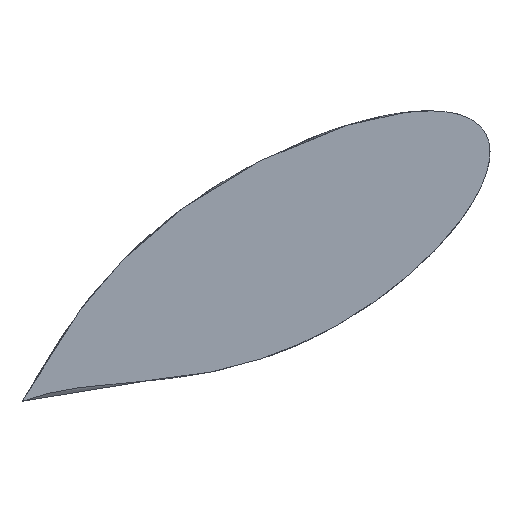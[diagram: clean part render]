
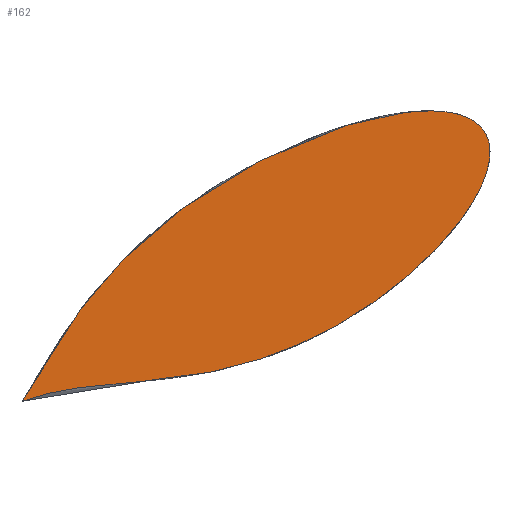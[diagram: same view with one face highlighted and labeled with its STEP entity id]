
A CAD part, left-side view. The second image highlights one B-rep face of the part: STEP entity #162.
In plain terms, the highlighted planar face has unit normal (-1, 0, 0).
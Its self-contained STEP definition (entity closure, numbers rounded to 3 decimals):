
#68=CARTESIAN_POINT('Vertex',(0.,274.53,-158.5)) ;
#74=CARTESIAN_POINT('Control Point',(0.,274.53,-158.5)) ;
#75=CARTESIAN_POINT('Control Point',(0.,260.905,-134.901)) ;
#76=CARTESIAN_POINT('Control Point',(0.,245.671,-110.006)) ;
#77=CARTESIAN_POINT('Control Point',(0.,228.829,-83.814)) ;
#78=CARTESIAN_POINT('Control Point',(0.,170.999,-29.869)) ;
#79=CARTESIAN_POINT('Control Point',(0.,83.901,9.571)) ;
#80=CARTESIAN_POINT('Control Point',(0.,37.79,21.257)) ;
#81=CARTESIAN_POINT('Control Point',(0.,9.09,16.611)) ;
#82=CARTESIAN_POINT('Control Point',(0.,0.,0.)) ;
#83=CARTESIAN_POINT('Vertex',(0.,0.,0.)) ;
#125=CARTESIAN_POINT('Control Point',(0.,0.,0.)) ;
#126=CARTESIAN_POINT('Control Point',(0.,-9.09,-16.611)) ;
#127=CARTESIAN_POINT('Control Point',(0.,1.43,-45.185)) ;
#128=CARTESIAN_POINT('Control Point',(0.,33.76,-81.353)) ;
#129=CARTESIAN_POINT('Control Point',(0.,110.887,-134.804)) ;
#130=CARTESIAN_POINT('Control Point',(0.,187.86,-149.059)) ;
#131=CARTESIAN_POINT('Control Point',(0.,220.034,-146.033)) ;
#132=CARTESIAN_POINT('Control Point',(0.,248.924,-149.18)) ;
#133=CARTESIAN_POINT('Control Point',(0.,274.53,-158.5)) ;
#153=CARTESIAN_POINT('Axis2P3D Location',(0.,0.,0.)) ;
#154=DIRECTION('Axis2P3D Direction',(1.,0.,0.)) ;
#155=DIRECTION('Axis2P3D XDirection',(0.,1.,0.)) ;
#156=AXIS2_PLACEMENT_3D('Plane Axis2P3D',#153,#154,#155) ;
#159=ORIENTED_EDGE('',*,*,#134,.F.) ;
#160=ORIENTED_EDGE('',*,*,#85,.F.) ;
#162=ADVANCED_FACE('PartBody',(#161),#157,.F.) ;
#73=B_SPLINE_CURVE_WITH_KNOTS('',5,(#74,#75,#76,#77,#78,#79,#80,#81,#82),.UNSPECIFIED.,.F.,.U.,(6,3,6),(0.,167.074,334.147),.UNSPECIFIED.) ;
#124=B_SPLINE_CURVE_WITH_KNOTS('',5,(#125,#126,#127,#128,#129,#130,#131,#132,#133),.UNSPECIFIED.,.F.,.U.,(6,3,6),(334.147,501.221,668.295),.UNSPECIFIED.) ;
#85=EDGE_CURVE('',#69,#84,#73,.T.) ;
#134=EDGE_CURVE('',#84,#69,#124,.T.) ;
#158=EDGE_LOOP('',(#159,#160)) ;
#161=FACE_OUTER_BOUND('',#158,.T.) ;
#157=PLANE('',#156) ;
#69=VERTEX_POINT('',#68) ;
#84=VERTEX_POINT('',#83) ;
